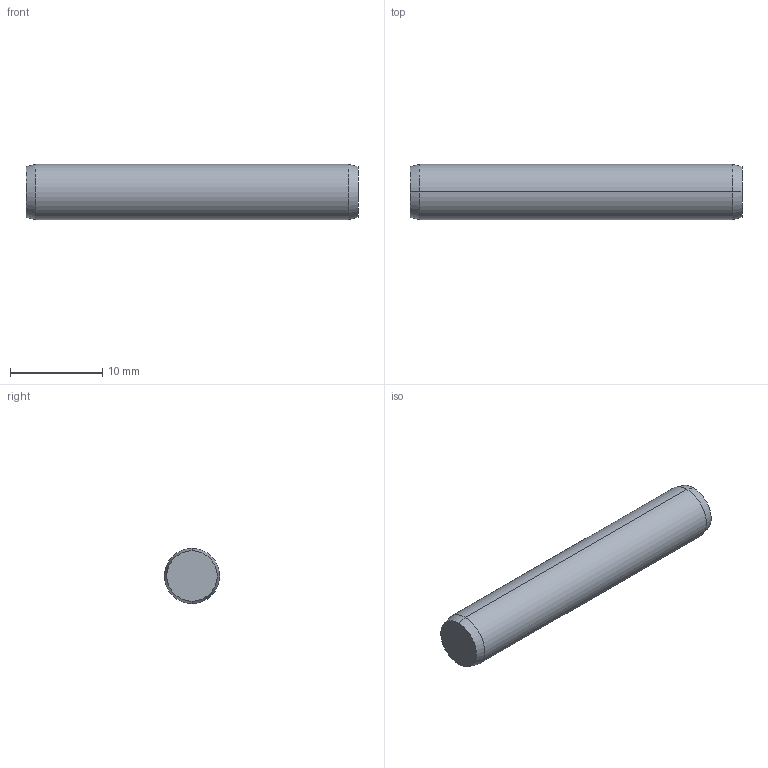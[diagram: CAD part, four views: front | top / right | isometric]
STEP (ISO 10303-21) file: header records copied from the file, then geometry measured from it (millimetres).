
FILE_DESCRIPTION (( 'STEP AP203' ), '1' );
FILE_NAME ('P1206.060-036.step', '2017-06-14T08:22:09', ( 'User' ), ( '' ), 'SwSTEP 2.0', 'SolidWorks 2009', '' );
FILE_SCHEMA (( 'CONFIG_CONTROL_DESIGN' ));
Length unit declared in the file: millimetre
Products named in the file (1): P1206.060-036
Bounding box: 36 x 6 x 6 mm (x, y, z)
Volume: 1013 mm3; surface area: 725.1 mm2
Topology: 1 solids, 1 shells, 8 faces, 14 edges, 8 vertices
Faces by surface type: cone 4, cylinder 2, plane 2
Entity records: 271 total; most frequent: DIRECTION 40, CARTESIAN_POINT 31, ORIENTED_EDGE 28, AXIS2_PLACEMENT_3D 17, EDGE_CURVE 14, FACE_OUTER_BOUND 8, CIRCLE 8, ADVANCED_FACE 8
